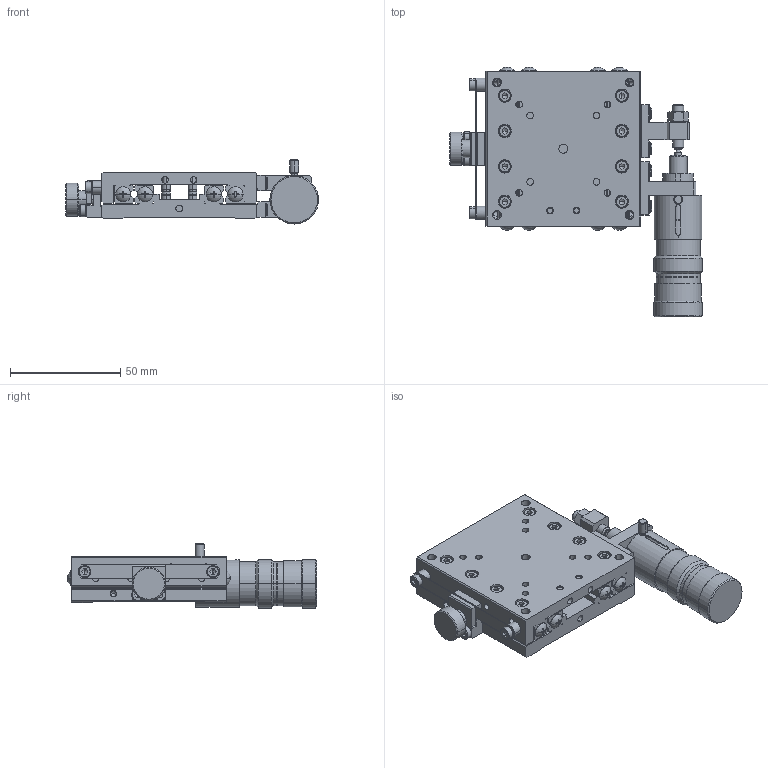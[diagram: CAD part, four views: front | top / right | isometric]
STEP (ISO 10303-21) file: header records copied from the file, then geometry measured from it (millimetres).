
FILE_DESCRIPTION (( 'STEP AP214' ), '1' );
FILE_NAME ('XM07A-S3Z-R-CL.STEP', '2009-05-11T05:43:05', ( ' ' ), ( ' ' ), 'SwSTEP 2.0', 'SolidWorks 2008', '' );
FILE_SCHEMA (( 'AUTOMOTIVE_DESIGN' ));
Products named in the file (3): XM07A-S3Z-R-CL; 001490-1011(3D); 001490-1023(3D)
Assembly tree (2 placements, depth 2):
  XM07A-S3Z-R-CL
    001490-1011(3D)
    001490-1023(3D)
Bounding box: 114.5 x 112.87 x 29 mm (x, y, z)
Volume: 109740 mm3; surface area: 52818.6 mm2
Topology: 2 solids, 44 shells, 1908 faces, 4560 edges, 2738 vertices
Faces by surface type: plane 895, cylinder 580, cone 400, sphere 17, torus 16
Entity records: 55529 total; most frequent: CARTESIAN_POINT 10556, DIRECTION 9945, ORIENTED_EDGE 8932, EDGE_CURVE 4466, AXIS2_PLACEMENT_3D 3788, VERTEX_POINT 2737, VECTOR 2369, LINE 2369
